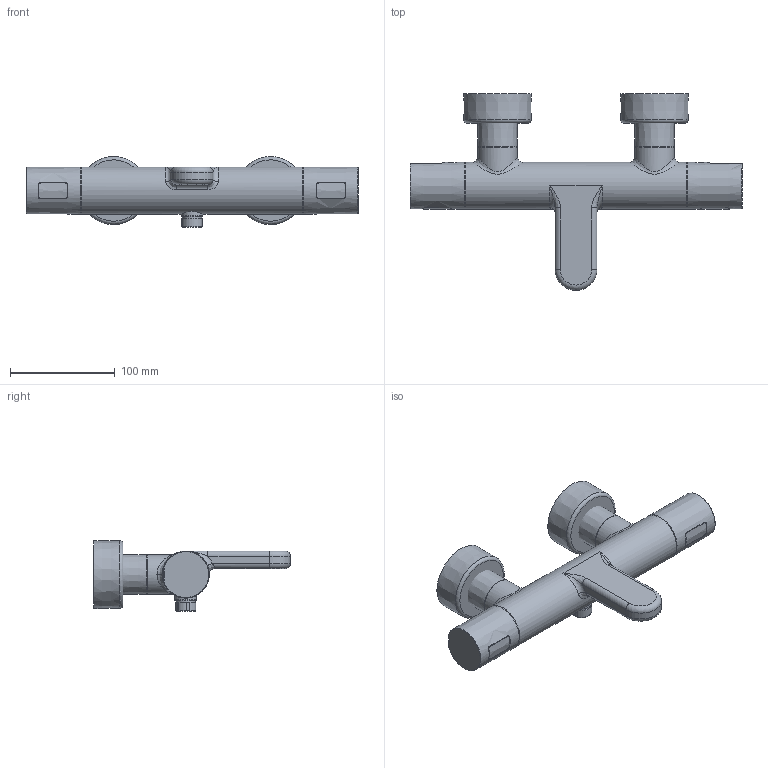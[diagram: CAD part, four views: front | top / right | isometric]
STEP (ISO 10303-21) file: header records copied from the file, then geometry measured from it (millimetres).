
FILE_DESCRIPTION(/* description */ (''),/* implementation_level */ '2;1');
FILE_NAME(/* name */ 'TVT000001000 komplette Beschriftung entfernen - done.step',/* time_stamp */ '2023-02-23T11:52:25+01:00',/* author */ (''),/* organization */ (''),/* preprocessor_version */ 'ST-DEVELOPER v19.2',/* originating_system */ 'Autodesk Translation Framework v11.17.0.187',/* authorisation */ '');
FILE_SCHEMA (('AUTOMOTIVE_DESIGN { 1 0 10303 214 3 1 1 }'));
Length unit declared in the file: millimetre
Products named in the file (7): (Nicht gespeichert); F091001-004; BASHOU0112; Komponente5; YOUBASHOU; Komponente6; 45YLOGO
Assembly tree (7 placements, depth 3):
  (Nicht gespeichert)
    F091001-004  x2
    BASHOU0112
      Komponente5
    YOUBASHOU
      Komponente6
    45YLOGO
Bounding box: 317.4 x 188 x 67.8 mm (x, y, z)
Volume: 682884.1 mm3; surface area: 113960.5 mm2
Topology: 11 solids, 19 shells, 183 faces, 408 edges, 270 vertices
Faces by surface type: plane 77, cylinder 49, bspline 21, cone 16, torus 16, sphere 4
Full cylindrical faces by diameter (mm): 16.2 x1, 18 x1, 18.5 x1, 20.8 x1, 21 x1, 24.3 x1, 38 x2, 40 x2, 40.4 x1, 40.7 x2, 42 x2, 42.3 x2, 45 x3
Entity records: 10465 total; most frequent: CARTESIAN_POINT 6511, DIRECTION 786, ORIENTED_EDGE 734, EDGE_CURVE 393, AXIS2_PLACEMENT_3D 325, VERTEX_POINT 260, EDGE_LOOP 195, FACE_OUTER_BOUND 175
